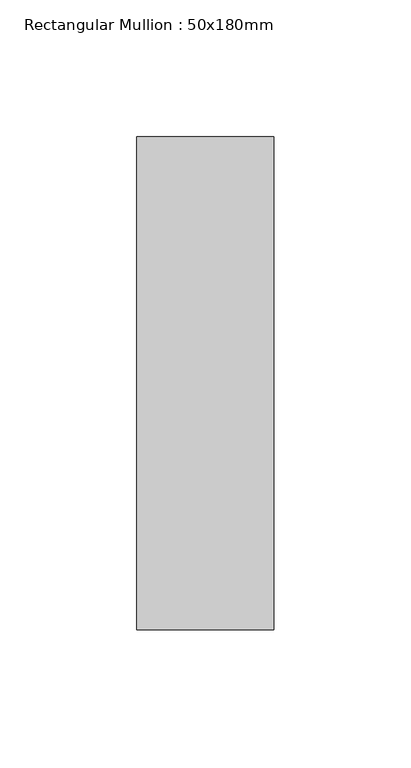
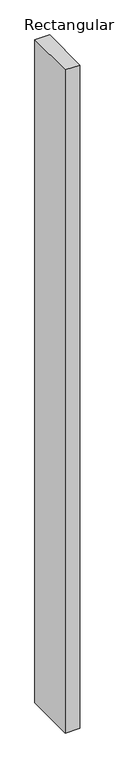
"""IFC4 building model written with IfcOpenShell, lengths in millimetres: member geometry, Rectangular Mullion : 50x180mm."""

from ifc_helpers import new_model, si_unit, frame, origin, place, context, project, spatial, polyline, outline, extrude, source, transform, mapped, element, save


def rectangular_mullion_50x180mm_b21090a6(model_context):
    return source(origin(), model_context, "Body", "SweptSolid", [
        extrude(outline(polyline([(0.0, 90.0), (0.0, -90.0), (-50.0, -90.0), (-50.0, 90.0), (0.0, 90.0)])), frame((0.0, 0.0, -2400.0), z_axis=(0.0, 0.0, 1.0), x_axis=(1.0, 0.0, 0.0)), (0.0, 0.0, 1.0), 2400.0),
    ])


if __name__ == "__main__":
    model = new_model("IFC4")
    model_context = context("Model", 3, world=origin())
    ifc_project = project(units=[si_unit("LENGTHUNIT", "METRE", prefix="MILLI")], contexts=[model_context])
    site = spatial("IfcSite", under=ifc_project)
    building = spatial("IfcBuilding", under=site)
    placement = place(None, origin())
    rectangular_mullion_50x180mm_shape = rectangular_mullion_50x180mm_b21090a6(model_context)
    element("IfcMember", 1, ObjectType="Rectangular Mullion : 50x180mm", at=placement, inside=building, context=model_context, shape_type="MappedRepresentation", body=[
        mapped(rectangular_mullion_50x180mm_shape, transform((0.0, 0.0, 0.0), x_axis=(1.0, 0.0, 0.0), y_axis=(0.0, 1.0, 0.0), z_axis=(0.0, 0.0, 1.0))),
    ])
    save(model, "model.ifc")
